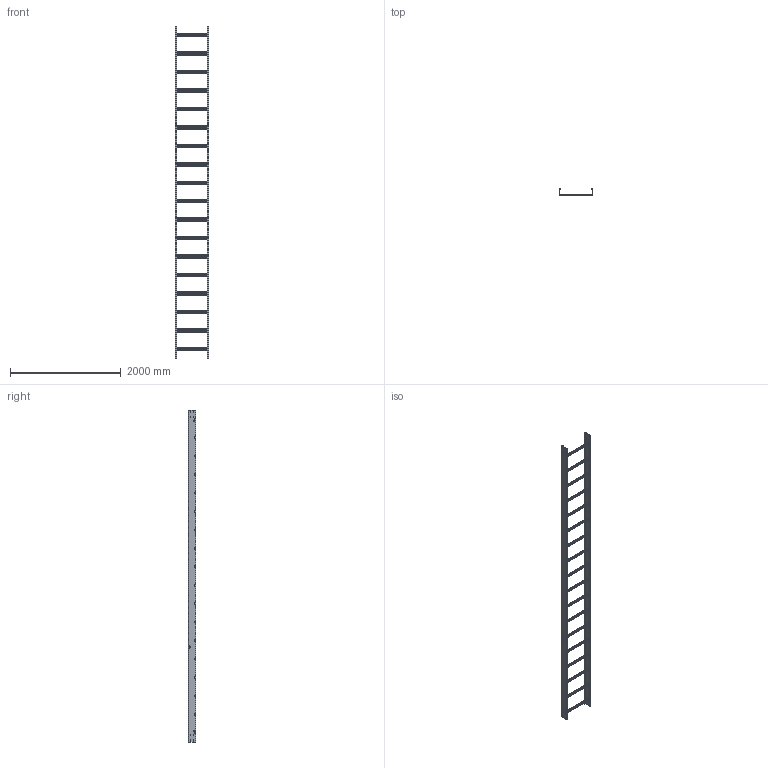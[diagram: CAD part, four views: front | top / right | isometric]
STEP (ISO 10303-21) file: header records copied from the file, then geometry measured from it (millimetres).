
FILE_DESCRIPTION (( 'STEP AP203' ), '1' );
FILE_NAME ('N3 LR 600 6m.STEP', '2024-08-29T04:05:02', ( '' ), ( '' ), 'SwSTEP 2.0', 'SolidWorks 2023', '' );
FILE_SCHEMA (( 'CONFIG_CONTROL_DESIGN' ));
Length unit declared in the file: millimetre
Products named in the file (3): N3 LR 600 6m; Ladder Rung_Ladder Rung -  600mm; Ladder Rails_Nema 3Rev - 6m
Assembly tree (20 placements, depth 2):
  N3 LR 600 6m
    Ladder Rails_Nema 3Rev - 6m  x2
    Ladder Rung_Ladder Rung -  600mm  x18
Bounding box: 603.2 x 131 x 6000 mm (x, y, z)
Volume: 4790929 mm3; surface area: 6108923 mm2
Topology: 20 solids, 20 shells, 2884 faces, 7842 edges, 5020 vertices
Faces by surface type: plane 2602, cylinder 196, bspline 86
Entity records: 13700 total; most frequent: CARTESIAN_POINT 4475, ORIENTED_EDGE 1826, DIRECTION 1531, EDGE_CURVE 913, LINE 759, VECTOR 759, VERTEX_POINT 590, EDGE_LOOP 415
